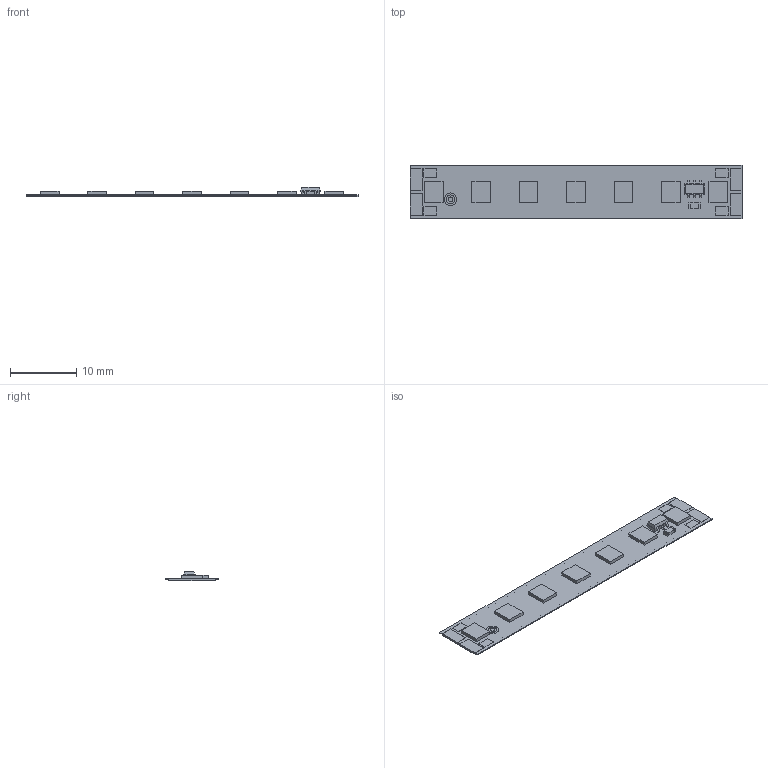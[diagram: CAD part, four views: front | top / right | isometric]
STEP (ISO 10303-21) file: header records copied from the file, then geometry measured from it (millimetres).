
FILE_DESCRIPTION((''),'2;1');
FILE_NAME('16208858_LLE-FLEX-EXC3-8X50','2020-10-06T15:03:11',('bernhard.fink'),(''),'CREO PARAMETRIC BY PTC INC, 2019164','CREO PARAMETRIC BY PTC INC, 2019164','');
FILE_SCHEMA(('CONFIG_CONTROL_DESIGN'));
Length unit declared in the file: millimetre
Products named in the file (1): 16208858_LLE-FLEX-EXC3-8X50
Bounding box: 50.01 x 8 x 1.38 mm (x, y, z)
Volume: 143.4 mm3; surface area: 895.5 mm2
Topology: 1 solids, 1 shells, 219 faces, 558 edges, 326 vertices
Faces by surface type: plane 165, cylinder 30, sphere 24
Entity records: 6318 total; most frequent: CARTESIAN_POINT 1079, ORIENTED_EDGE 1068, DIRECTION 1056, EDGE_CURVE 534, VECTOR 450, LINE 450, VERTEX_POINT 326, AXIS2_PLACEMENT_3D 303
